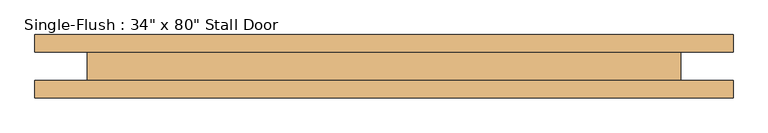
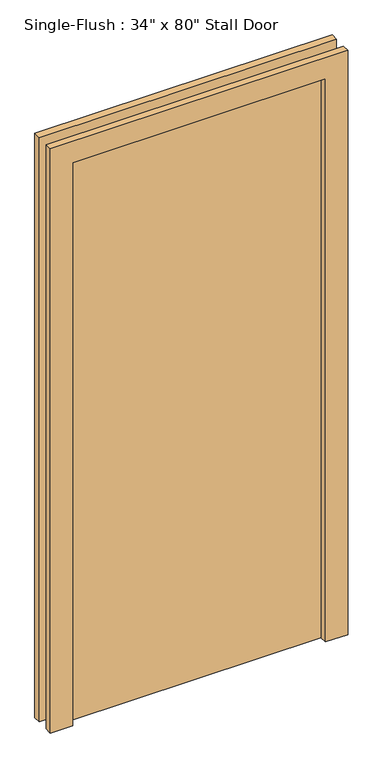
"""IFC4 building model written with IfcOpenShell, lengths in millimetres: door geometry."""

from ifc_helpers import new_model, si_unit, frame, origin, origin_with_axes, place, context, project, spatial, polyline, outline, extrude, source, transform, mapped, element, save


def door_b36525dd(model_context):
    return source(origin(), model_context, "Body", "SweptSolid", [
        extrude(outline(polyline([(2108.2, -508.0), (0.0, -508.0), (0.0, -431.8), (2032.0, -431.8), (2032.0, 431.8), (0.0, 431.8), (0.0, 508.0), (2108.2, 508.0), (2108.2, -508.0)])), frame((0.0, -46.0375, 0.0), z_axis=(0.0, 1.0, 0.0), x_axis=(0.0, 0.0, 1.0)), (0.0, 0.0, 1.0), 25.4),
        extrude(outline(polyline([(2108.2, 508.0), (2108.2, -508.0), (0.0, -508.0), (0.0, -431.8), (2032.0, -431.8), (2032.0, 431.8), (0.0, 431.8), (0.0, 508.0), (2108.2, 508.0)])), frame((0.0, 20.6375, 0.0), z_axis=(0.0, 1.0, 0.0), x_axis=(0.0, 0.0, 1.0)), (0.0, 0.0, 1.0), 25.4),
        extrude(outline(polyline([(431.8, 30.1625), (431.8, -20.6375), (-431.8, -20.6375), (-431.8, 30.1625), (431.8, 30.1625)])), origin_with_axes(), (0.0, 0.0, 1.0), 2032.0),
    ])


if __name__ == "__main__":
    model = new_model("IFC4")
    model_context = context("Model", 3, world=origin())
    ifc_project = project(units=[si_unit("LENGTHUNIT", "METRE", prefix="MILLI")], contexts=[model_context])
    site = spatial("IfcSite", under=ifc_project)
    building = spatial("IfcBuilding", under=site)
    placement = place(None, origin())
    door_shape = door_b36525dd(model_context)
    element("IfcDoor", 1, ObjectType="Single-Flush : 34\" x 80\" Stall Door", at=placement, inside=building, context=model_context, shape_type="MappedRepresentation", body=[
        mapped(door_shape, transform((0.0, 0.0, 0.0), x_axis=(1.0, 0.0, 0.0), y_axis=(0.0, 1.0, 0.0), z_axis=(0.0, 0.0, 1.0))),
    ])
    save(model, "model.ifc")
